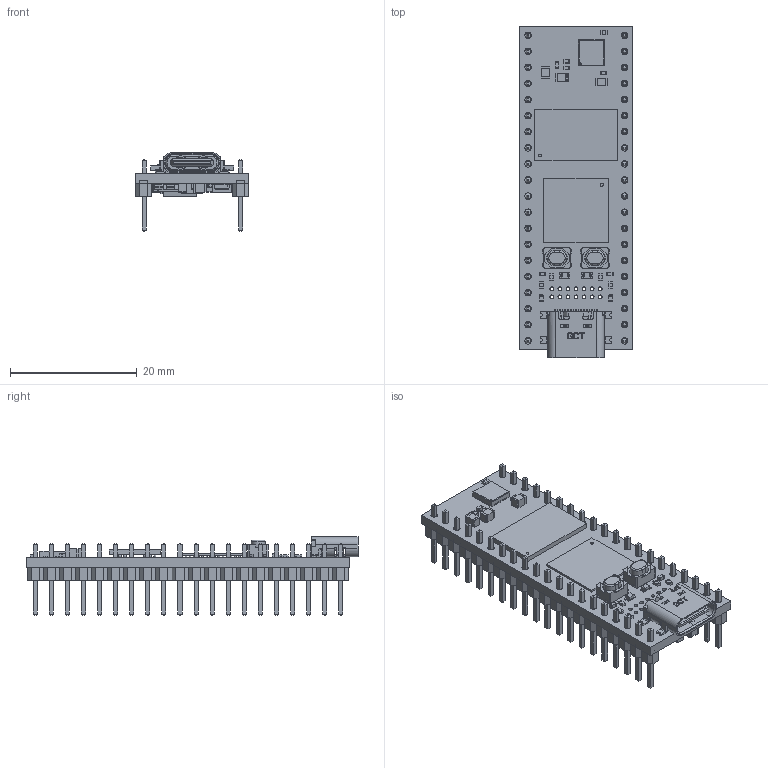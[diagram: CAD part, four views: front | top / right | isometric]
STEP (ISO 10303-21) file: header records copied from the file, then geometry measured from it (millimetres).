
FILE_DESCRIPTION(/* description */ (''),/* implementation_level */ '2;1');
FILE_NAME(/* name */ 'ES_Daisy_Seed3_Rev5.step',/* time_stamp */ '2026-06-18T15:42:11-07:00',/* author */ (''),/* organization */ (''),/* preprocessor_version */ 'ST-DEVELOPER v20.1',/* originating_system */ 'Autodesk Translation Framework v14.24.0.0',/* authorisation */ '');
FILE_SCHEMA (('AUTOMOTIVE_DESIGN { 1 0 10303 214 3 1 1 }'));
Products named in the file (35): ES_Daisy_Seed3_Rev5; Board; Packages; VQFN24_RGE_CORNERPADS_TEX; 1X20_NO_SILK_SQR; 1X20_NO_SILK; FBGA-90_CLEAN-POL; SOIC_BROAD_208MIL; 30744367; Part 9; Part 8; Part 7; Part 6; Part 5; Part 4; Part 3; Part 2; Part 1; UFBGA-176_CLEAN-POL; WSON-8-TI; DIODE_0603; PTS815; BOURNS_SRP2010; CAPC1005X61N; CAPC2012X137N; CAPC3116X163N; OSCSC320X250X100N; R0402; YAG-FB-0603-1608; YAG-FB-0603-1608 (1); SOT23-5; SOD2512X100N; SOT-23-6L; GCT_USB4110GFA; USB4110-GF-A_revB(1) MF
Assembly tree (108 placements, depth 5):
  ES_Daisy_Seed3_Rev5
    Board
    Packages
      VQFN24_RGE_CORNERPADS_TEX
      1X20_NO_SILK_SQR
      1X20_NO_SILK
      FBGA-90_CLEAN-POL
      SOIC_BROAD_208MIL
        30744367
          Part 9
          Part 8
          Part 7
          Part 6
          Part 5
          Part 4
          Part 3
          Part 2
          Part 1
      UFBGA-176_CLEAN-POL
      WSON-8-TI
      DIODE_0603  x2
      PTS815  x2
      BOURNS_SRP2010
      CAPC1005X61N  x46
      CAPC2012X137N  x12
      CAPC3116X163N  x2
      OSCSC320X250X100N
      R0402  x15
      YAG-FB-0603-1608
      YAG-FB-0603-1608 (1)
      SOT23-5
      SOD2512X100N  x2
      SOT-23-6L
      GCT_USB4110GFA
        USB4110-GF-A_revB(1) MF
Bounding box: 18 x 52.43 x 12.42 mm (x, y, z)
Volume: 2604.8 mm3; surface area: 6179.9 mm2
Topology: 445 solids, 445 shells, 8174 faces, 18355 edges, 10709 vertices
Faces by surface type: plane 3950, cylinder 2505, sphere 1531, torus 132, bspline 34, cone 22
Full cylindrical faces by diameter (mm): 0.088 x1, 0.3 x3, 0.4 x1, 0.405 x1, 0.5 x2, 0.508 x1, 0.61 x14, 1.016 x40
Entity records: 124007 total; most frequent: CARTESIAN_POINT 23132, DIRECTION 19962, ORIENTED_EDGE 19396, EDGE_CURVE 9698, LINE 7596, VECTOR 7596, VERTEX_POINT 6469, AXIS2_PLACEMENT_3D 6183
